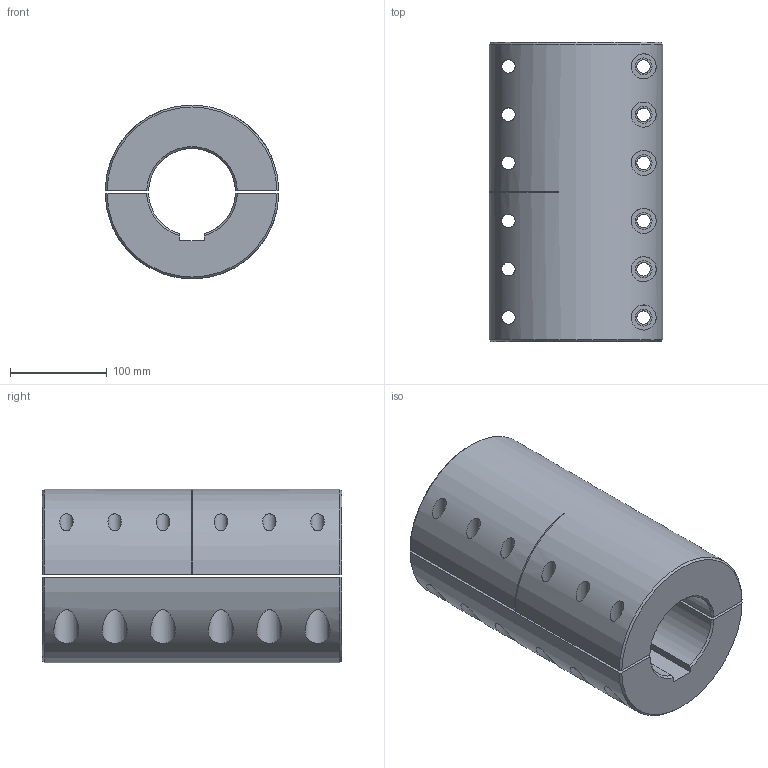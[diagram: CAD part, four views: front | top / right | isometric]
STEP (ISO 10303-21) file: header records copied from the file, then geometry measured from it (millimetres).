
FILE_DESCRIPTION (( 'STEP AP203' ), '1' );
FILE_NAME ('Y180-9090N-F.STEP', '2021-04-14T09:40:52', ( '' ), ( '' ), 'SwSTEP 2.0', 'SolidWorks 2020', '' );
FILE_SCHEMA (( 'CONFIG_CONTROL_DESIGN' ));
Length unit declared in the file: millimetre
Products named in the file (1): Y180-9090N-F
Bounding box: 179.97 x 310 x 180 mm (x, y, z)
Volume: 5380297.6 mm3; surface area: 430023.1 mm2
Topology: 2 solids, 2 shells, 82 faces, 198 edges, 132 vertices
Faces by surface type: cylinder 41, plane 31, cone 10
Full cylindrical faces by diameter (mm): 14 x12, 17.5 x12, 26 x12
Entity records: 4781 total; most frequent: CARTESIAN_POINT 2837, DIRECTION 360, ORIENTED_EDGE 324, EDGE_LOOP 178, EDGE_CURVE 162, AXIS2_PLACEMENT_3D 159, VERTEX_POINT 132, FACE_OUTER_BOUND 118
